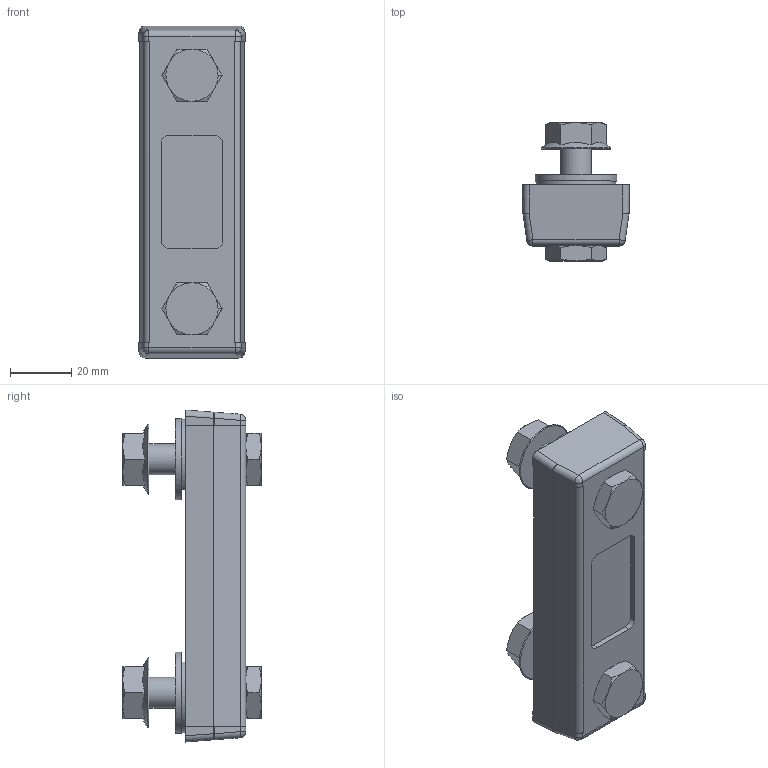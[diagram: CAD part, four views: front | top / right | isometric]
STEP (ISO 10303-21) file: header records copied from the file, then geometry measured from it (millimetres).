
FILE_DESCRIPTION((''),'2;1');
FILE_NAME('U:\Users\a.heinl\Oelstandsanzeiger3511.stp', '2013-05-24T14:28:24',('User'),('SDRC'),'I-DEAS Master Series 9','UNIX', 'Yes');
FILE_SCHEMA(('AUTOMOTIVE_DESIGN { 1 0 10303 214 1 1 1 1 }'));
Length unit declared in the file: millimetre
Products named in the file (1): 13727200(319301)
Bounding box: 34.5 x 45 x 108 mm (x, y, z)
Volume: 79241.6 mm3; surface area: 17467.6 mm2
Topology: 1 solids, 1 shells, 165 faces, 376 edges, 222 vertices
Faces by surface type: bspline 165
Entity records: 4853 total; most frequent: CARTESIAN_POINT 2725, ORIENTED_EDGE 736, EDGE_CURVE 368, VERTEX_POINT 222, EDGE_LOOP 182, FACE_OUTER_BOUND 165, ADVANCED_FACE 165, B_SPLINE_CURVE_WITH_KNOTS 138
